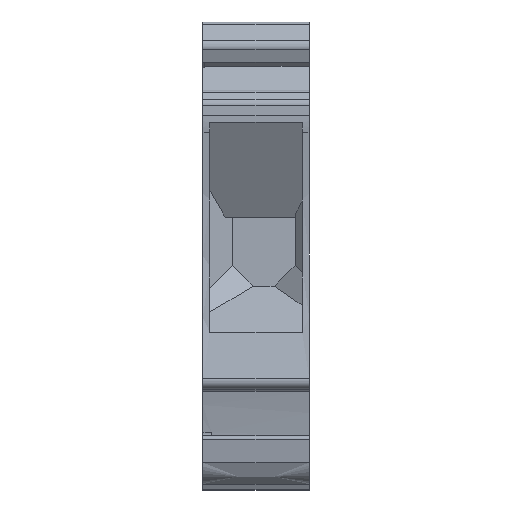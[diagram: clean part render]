
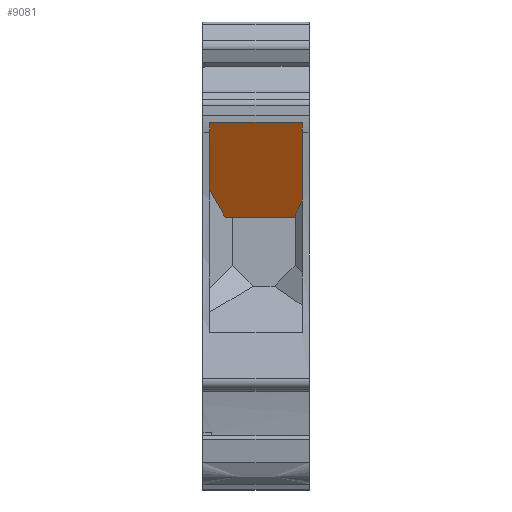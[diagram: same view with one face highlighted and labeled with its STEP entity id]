
A CAD part, left-side view. The second image highlights one B-rep face of the part: STEP entity #9081.
In plain terms, the highlighted planar face has unit normal (-0.866, 0, -0.5).
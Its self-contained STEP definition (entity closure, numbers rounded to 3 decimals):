
#2314=CARTESIAN_POINT('',(-20.,9.6,25.2));
#2315=VERTEX_POINT('',#2314);
#2322=CARTESIAN_POINT('',(-21.75,11.35,28.231));
#2323=VERTEX_POINT('',#2322);
#2324=CARTESIAN_POINT('',(-20.,9.6,25.2));
#2325=DIRECTION('',(-0.447,0.447,0.775));
#2326=VECTOR('',#2325,3.913);
#2327=LINE('',#2324,#2326);
#2328=EDGE_CURVE('',#2315,#2323,#2327,.T.);
#2346=CARTESIAN_POINT('',(-20.2,1.6,25.546));
#2347=VERTEX_POINT('',#2346);
#2370=CARTESIAN_POINT('',(-21.,0.8,26.932));
#2371=VERTEX_POINT('',#2370);
#2378=CARTESIAN_POINT('',(-21.,0.8,26.932));
#2379=DIRECTION('',(0.447,0.447,-0.775));
#2380=VECTOR('',#2379,1.789);
#2381=LINE('',#2378,#2380);
#2382=EDGE_CURVE('',#2371,#2347,#2381,.T.);
#2524=CARTESIAN_POINT('',(-20.,1.6,25.2));
#2525=VERTEX_POINT('',#2524);
#2526=CARTESIAN_POINT('',(-20.2,1.6,25.546));
#2527=DIRECTION('',(0.5,0.,-0.866));
#2528=VECTOR('',#2527,0.4);
#2529=LINE('',#2526,#2528);
#2530=EDGE_CURVE('',#2347,#2525,#2529,.T.);
#2686=CARTESIAN_POINT('',(-26.273,11.35,36.065));
#2687=VERTEX_POINT('',#2686);
#2688=CARTESIAN_POINT('',(-26.273,11.35,36.065));
#2689=DIRECTION('',(0.5,0.,-0.866));
#2690=VECTOR('',#2689,9.046);
#2691=LINE('',#2688,#2690);
#2692=EDGE_CURVE('',#2687,#2323,#2691,.T.);
#2709=CARTESIAN_POINT('',(-26.273,0.8,36.065));
#2710=VERTEX_POINT('',#2709);
#2711=CARTESIAN_POINT('',(-21.,0.8,26.932));
#2712=DIRECTION('',(-0.5,0.,0.866));
#2713=VECTOR('',#2712,10.546);
#2714=LINE('',#2711,#2713);
#2715=EDGE_CURVE('',#2371,#2710,#2714,.T.);
#3790=CARTESIAN_POINT('',(-26.273,0.8,36.065));
#3791=DIRECTION('',(0.,1.,0.));
#3792=VECTOR('',#3791,10.55);
#3793=LINE('',#3790,#3792);
#3794=EDGE_CURVE('',#2710,#2687,#3793,.T.);
#8872=CARTESIAN_POINT('',(-20.,9.6,25.2));
#8873=DIRECTION('',(0.,-1.,0.));
#8874=VECTOR('',#8873,8.);
#8875=LINE('',#8872,#8874);
#8876=EDGE_CURVE('',#2315,#2525,#8875,.T.);
#9067=CARTESIAN_POINT('',(-23.111,6.075,30.588));
#9068=DIRECTION('',(-0.5,0.,0.866));
#9069=DIRECTION('',(-0.866,0.,-0.5));
#9070=AXIS2_PLACEMENT_3D('',#9067,#9069,#9068);
#9071=PLANE('',#9070);
#9072=ORIENTED_EDGE('',*,*,#2530,.F.);
#9073=ORIENTED_EDGE('',*,*,#2382,.F.);
#9074=ORIENTED_EDGE('',*,*,#2715,.T.);
#9075=ORIENTED_EDGE('',*,*,#3794,.T.);
#9076=ORIENTED_EDGE('',*,*,#2692,.T.);
#9077=ORIENTED_EDGE('',*,*,#2328,.F.);
#9078=ORIENTED_EDGE('',*,*,#8876,.T.);
#9079=EDGE_LOOP('',(#9072,#9073,#9074,#9075,#9076,#9077,#9078));
#9080=FACE_OUTER_BOUND('',#9079,.T.);
#9081=ADVANCED_FACE('F268',(#9080),#9071,.T.);
